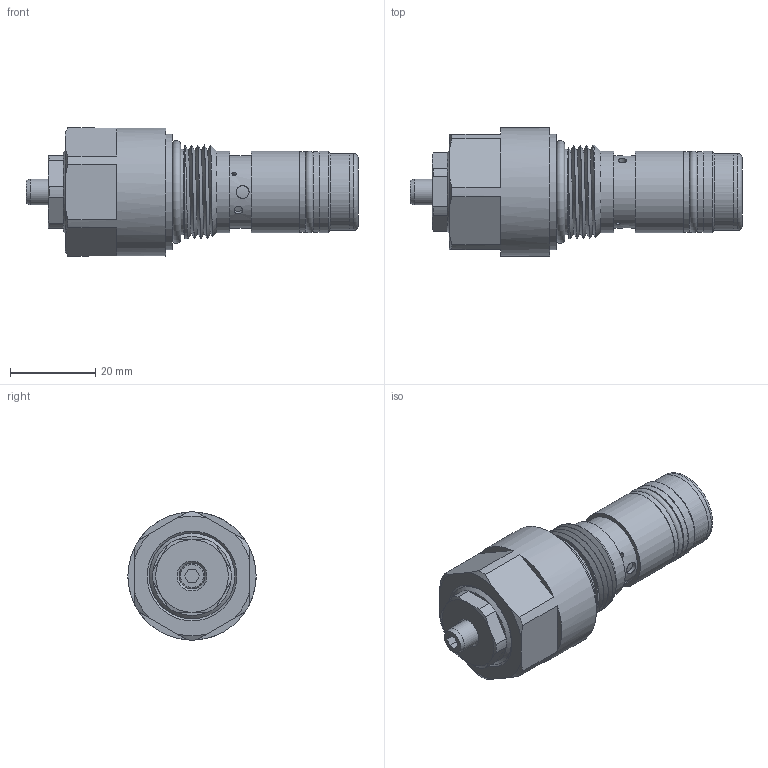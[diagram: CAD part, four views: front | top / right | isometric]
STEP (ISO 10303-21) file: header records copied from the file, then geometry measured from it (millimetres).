
FILE_DESCRIPTION(/* description */ (''),/* implementation_level */ '2;1');
FILE_NAME(/* name */ '2FRM6K2-1XJ插入式调速阀.prt.stp',/* time_stamp */ '2022-03-30T19:55:48+08:00',/* author */ (''),/* organization */ (''),/* preprocessor_version */ 'ST-DEVELOPER v16.7',/* originating_system */ 'SIEMENS PLM Software NX 12.0',/* authorisation */ '');
FILE_SCHEMA (('AUTOMOTIVE_DESIGN { 1 0 10303 214 3 1 1 1 }'));
Length unit declared in the file: millimetre
Products named in the file (1): 2FRM6K2-1XJ插入式调速阀
Bounding box: 77.7 x 30 x 30 mm (x, y, z)
Volume: 33105 mm3; surface area: 14963.4 mm2
Topology: 9 solids, 10 shells, 163 faces, 341 edges, 215 vertices
Faces by surface type: plane 72, cylinder 56, cone 23, torus 8, bspline 4
Full cylindrical faces by diameter (mm): 1 x2, 2 x2, 3 x2, 6 x2, 9 x1, 12 x1, 15 x1, 16 x4, 17 x1, 17.6 x2, 18 x4, 18.8 x2, 19 x11, 20 x3, 27 x1, 30 x1
Entity records: 6850 total; most frequent: CARTESIAN_POINT 3826, DIRECTION 604, ORIENTED_EDGE 508, AXIS2_PLACEMENT_3D 261, EDGE_CURVE 254, EDGE_LOOP 226, VERTEX_POINT 191, ADVANCED_FACE 154
